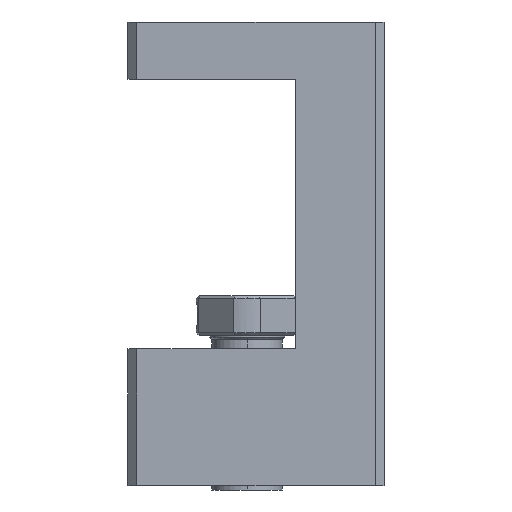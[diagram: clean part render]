
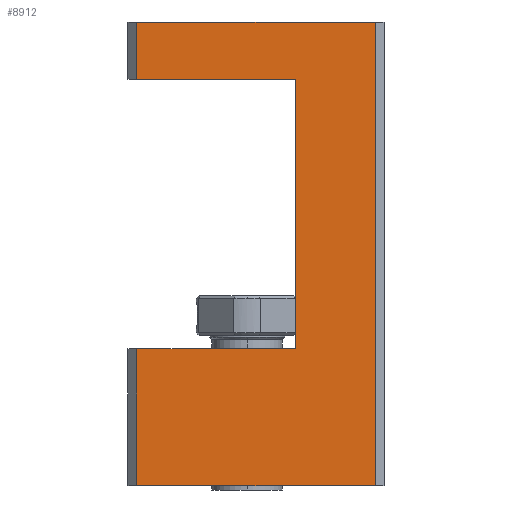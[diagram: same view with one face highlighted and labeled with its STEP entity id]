
A CAD part, left-side view. The second image highlights one B-rep face of the part: STEP entity #8912.
In plain terms, the highlighted planar face has unit normal (-1, 0, 0).
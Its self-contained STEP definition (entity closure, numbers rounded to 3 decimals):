
#214 = CARTESIAN_POINT ( 'NONE',  ( -17., 13.5, 15.5 ) ) ;
#306 = VERTEX_POINT ( 'NONE', #8012 ) ;
#721 = CARTESIAN_POINT ( 'NONE',  ( -17., 13.5, 52.5 ) ) ;
#922 = LINE ( 'NONE', #214, #1032 ) ;
#1032 = VECTOR ( 'NONE', #3125, 1000. ) ;
#1048 = CARTESIAN_POINT ( 'NONE',  ( -17., 12.5, 52.5 ) ) ;
#1061 = EDGE_LOOP ( 'NONE', ( #1176, #8102, #7691, #1919, #5312, #9329, #1633, #1577 ) ) ;
#1062 = LINE ( 'NONE', #6178, #7909 ) ;
#1106 = DIRECTION ( 'NONE',  ( 0., 0., 1. ) ) ;
#1176 = ORIENTED_EDGE ( 'NONE', *, *, #4781, .F. ) ;
#1577 = ORIENTED_EDGE ( 'NONE', *, *, #3060, .T. ) ;
#1633 = ORIENTED_EDGE ( 'NONE', *, *, #3962, .T. ) ;
#1853 = LINE ( 'NONE', #4764, #6468 ) ;
#1919 = ORIENTED_EDGE ( 'NONE', *, *, #5226, .T. ) ;
#1990 = AXIS2_PLACEMENT_3D ( 'NONE', #721, #5726, #2016 ) ;
#2014 = LINE ( 'NONE', #7940, #6701 ) ;
#2016 = DIRECTION ( 'NONE',  ( 0., 1., 0. ) ) ;
#2126 = EDGE_CURVE ( 'NONE', #7433, #2722, #1853, .T. ) ;
#2403 = CARTESIAN_POINT ( 'NONE',  ( -17., 12.5, 0. ) ) ;
#2409 = EDGE_CURVE ( 'NONE', #3213, #2722, #6839, .T. ) ;
#2460 = DIRECTION ( 'NONE',  ( 0., 0., 1. ) ) ;
#2515 = VECTOR ( 'NONE', #1106, 1000. ) ;
#2722 = VERTEX_POINT ( 'NONE', #4684 ) ;
#3060 = EDGE_CURVE ( 'NONE', #3622, #8357, #5198, .T. ) ;
#3078 = DIRECTION ( 'NONE',  ( 0., 0., -1. ) ) ;
#3125 = DIRECTION ( 'NONE',  ( 0., 1., 0. ) ) ;
#3213 = VERTEX_POINT ( 'NONE', #8928 ) ;
#3214 = DIRECTION ( 'NONE',  ( 0., -1., 0. ) ) ;
#3342 = LINE ( 'NONE', #1048, #8476 ) ;
#3622 = VERTEX_POINT ( 'NONE', #8436 ) ;
#3725 = DIRECTION ( 'NONE',  ( 0., -1., 0. ) ) ;
#3930 = CARTESIAN_POINT ( 'NONE',  ( -17., 12.5, 52.5 ) ) ;
#3962 = EDGE_CURVE ( 'NONE', #7433, #3622, #3342, .T. ) ;
#4087 = VECTOR ( 'NONE', #2460, 1000. ) ;
#4668 = CARTESIAN_POINT ( 'NONE',  ( -17., -5.5, 52.5 ) ) ;
#4684 = CARTESIAN_POINT ( 'NONE',  ( -17., -14.5, 52.5 ) ) ;
#4764 = CARTESIAN_POINT ( 'NONE',  ( -17., 13.5, 52.5 ) ) ;
#4781 = EDGE_CURVE ( 'NONE', #8586, #8357, #9009, .T. ) ;
#5198 = LINE ( 'NONE', #5762, #6312 ) ;
#5226 = EDGE_CURVE ( 'NONE', #5295, #3213, #1062, .T. ) ;
#5290 = EDGE_CURVE ( 'NONE', #8586, #306, #922, .T. ) ;
#5295 = VERTEX_POINT ( 'NONE', #2403 ) ;
#5312 = ORIENTED_EDGE ( 'NONE', *, *, #2409, .T. ) ;
#5545 = CARTESIAN_POINT ( 'NONE',  ( -17., -14.5, 52.5 ) ) ;
#5726 = DIRECTION ( 'NONE',  ( 1., 0., 0. ) ) ;
#5762 = CARTESIAN_POINT ( 'NONE',  ( -17., 13.5, 46. ) ) ;
#5978 = CARTESIAN_POINT ( 'NONE',  ( -17., -5.5, 15.5 ) ) ;
#6097 = CARTESIAN_POINT ( 'NONE',  ( -17., -5.5, 46. ) ) ;
#6178 = CARTESIAN_POINT ( 'NONE',  ( -17., 13.5, 0. ) ) ;
#6312 = VECTOR ( 'NONE', #3725, 1000. ) ;
#6468 = VECTOR ( 'NONE', #7684, 1000. ) ;
#6701 = VECTOR ( 'NONE', #7178, 1000. ) ;
#6839 = LINE ( 'NONE', #5545, #2515 ) ;
#7178 = DIRECTION ( 'NONE',  ( 0., 0., -1. ) ) ;
#7231 = PLANE ( 'NONE',  #1990 ) ;
#7433 = VERTEX_POINT ( 'NONE', #3930 ) ;
#7569 = EDGE_CURVE ( 'NONE', #306, #5295, #2014, .T. ) ;
#7684 = DIRECTION ( 'NONE',  ( 0., -1., 0. ) ) ;
#7691 = ORIENTED_EDGE ( 'NONE', *, *, #7569, .T. ) ;
#7909 = VECTOR ( 'NONE', #3214, 1000. ) ;
#7940 = CARTESIAN_POINT ( 'NONE',  ( -17., 12.5, 52.5 ) ) ;
#8012 = CARTESIAN_POINT ( 'NONE',  ( -17., 12.5, 15.5 ) ) ;
#8102 = ORIENTED_EDGE ( 'NONE', *, *, #5290, .T. ) ;
#8357 = VERTEX_POINT ( 'NONE', #6097 ) ;
#8436 = CARTESIAN_POINT ( 'NONE',  ( -17., 12.5, 46. ) ) ;
#8476 = VECTOR ( 'NONE', #3078, 1000. ) ;
#8564 = FACE_OUTER_BOUND ( 'NONE', #1061, .T. ) ;
#8586 = VERTEX_POINT ( 'NONE', #5978 ) ;
#8912 = ADVANCED_FACE ( 'NONE', ( #8564 ), #7231, .F. ) ;
#8928 = CARTESIAN_POINT ( 'NONE',  ( -17., -14.5, 0. ) ) ;
#9009 = LINE ( 'NONE', #4668, #4087 ) ;
#9329 = ORIENTED_EDGE ( 'NONE', *, *, #2126, .F. ) ;
